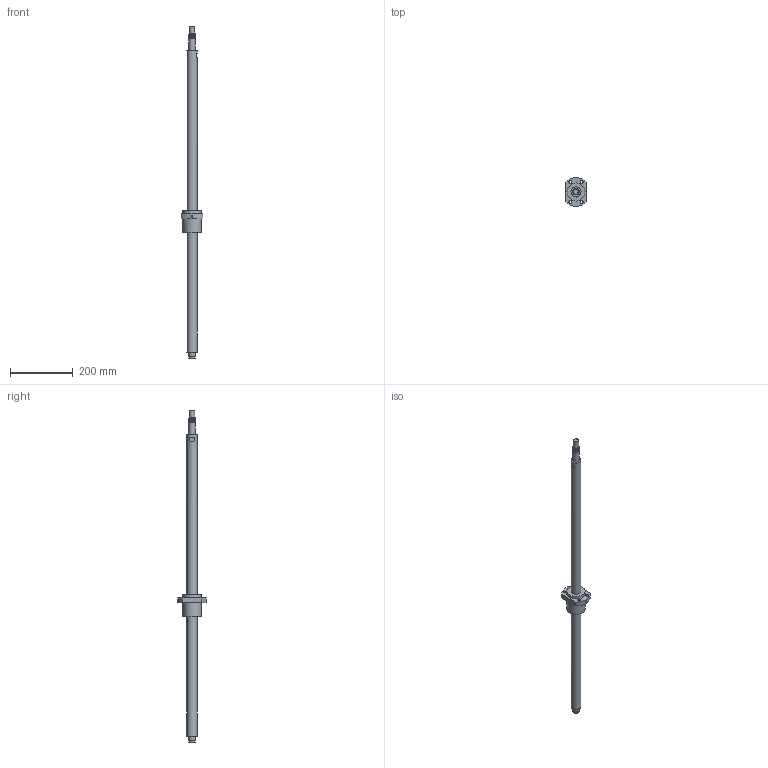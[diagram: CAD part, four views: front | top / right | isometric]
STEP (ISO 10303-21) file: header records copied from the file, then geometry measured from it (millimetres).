
FILE_DESCRIPTION(/* description */ (''),/* implementation_level */ '2;1');
FILE_NAME(/* name */ 'BSG466_asm1.stp',/* time_stamp */ '2017-01-14T09:26:21+08:00',/* author */ (''),/* organization */ (''),/* preprocessor_version */ 'ST-DEVELOPER v15',/* originating_system */ 'SIEMENS PLM Software NX 8.5',/* authorisation */ '');
FILE_SCHEMA (('AUTOMOTIVE_DESIGN { 1 0 10303 214 3 1 1 1 }'));
Length unit declared in the file: millimetre
Products named in the file (3): 01; BSG466; BSG466_asm1
Assembly tree (2 placements, depth 2):
  BSG466_asm1
    BSG466
    01
Bounding box: 68 x 92 x 1060 mm (x, y, z)
Volume: 969471.8 mm3; surface area: 137849.9 mm2
Topology: 2 solids, 2 shells, 72 faces, 185 edges, 126 vertices
Faces by surface type: plane 41, cylinder 29, bspline 2
Full cylindrical faces by diameter (mm): 4.5 x4, 5 x1, 6 x1, 9 x4, 17 x1, 19 x1, 20 x8, 32 x2, 58 x2
Entity records: 3391 total; most frequent: CARTESIAN_POINT 1865, DIRECTION 310, ORIENTED_EDGE 260, EDGE_CURVE 130, AXIS2_PLACEMENT_3D 125, EDGE_LOOP 107, VERTEX_POINT 97, FACE_BOUND 71
